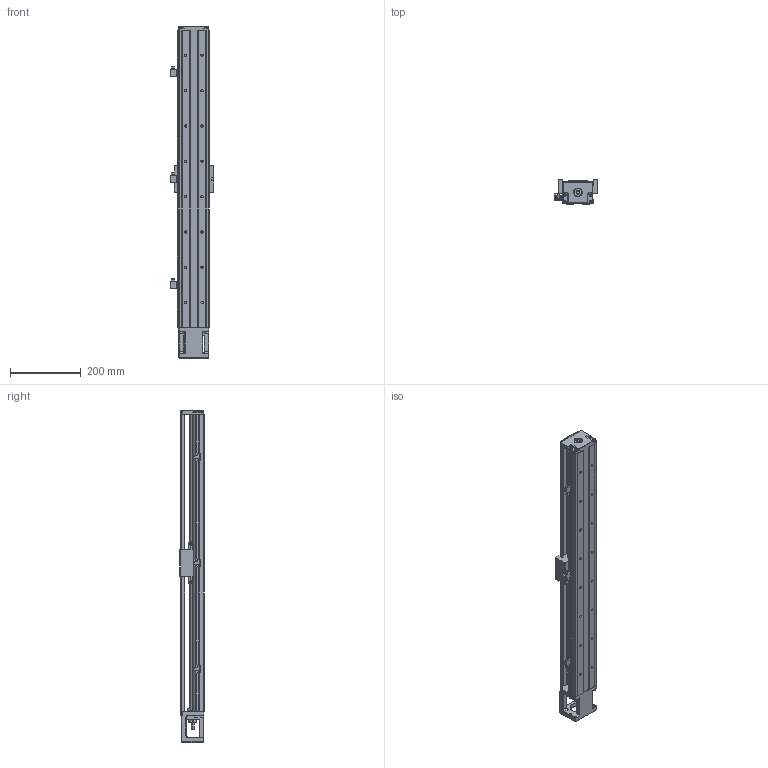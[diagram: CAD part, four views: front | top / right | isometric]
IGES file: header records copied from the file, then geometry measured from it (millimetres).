
Start section: SolidWorks IGES file using analytic representation for surfaces
Bounding box: 122.8 x 68 x 940 mm (x, y, z)
Surface area: 613376.3 mm2 (no closed solid volume)
Topology: 0 solids, 0 shells, 1653 faces, 19196 edges, 19044 vertices
Faces by surface type: bspline 941, revolution 712
